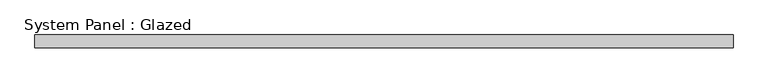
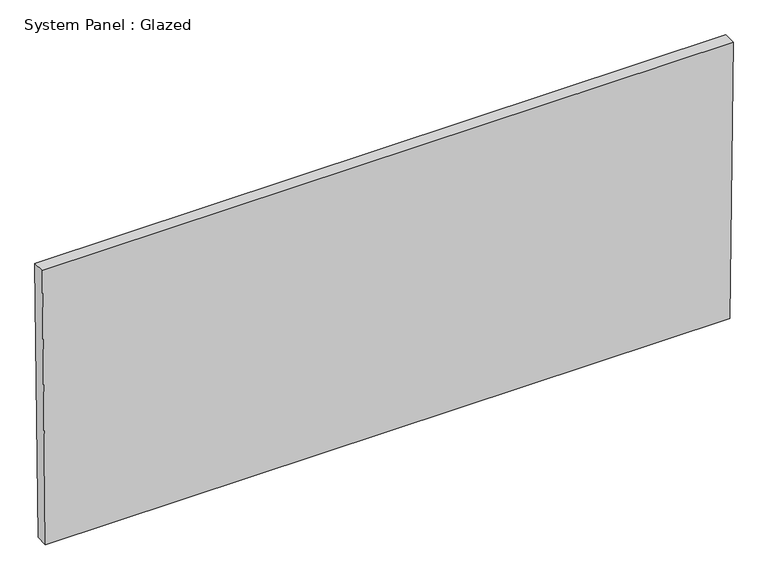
"""IFC4 building model written with IfcOpenShell, lengths in millimetres: plate geometry, System Panel : Glazed."""

from ifc_helpers import new_model, si_unit, frame, origin, place, context, project, spatial, polyline, outline, extrude, source, transform, mapped, element, save


def system_panel_glazed_6222ca12(model_context):
    return source(origin(), model_context, "Body", "SweptSolid", [
        extrude(outline(polyline([(0.0, -686.8768641), (0.0, 686.8768641), (584.1618488, 693.4126871), (584.1618488, -693.4126871), (0.0, -686.8768641)])), frame((0.0, 19.05, 0.0), z_axis=(0.0, 1.0, 0.0), x_axis=(0.0, 0.0, 1.0)), (0.0, 0.0, 1.0), 25.4),
    ])


if __name__ == "__main__":
    model = new_model("IFC4")
    model_context = context("Model", 3, world=origin())
    ifc_project = project(units=[si_unit("LENGTHUNIT", "METRE", prefix="MILLI")], contexts=[model_context])
    site = spatial("IfcSite", under=ifc_project)
    building = spatial("IfcBuilding", under=site)
    placement = place(None, origin())
    system_panel_glazed_shape = system_panel_glazed_6222ca12(model_context)
    element("IfcPlate", 1, ObjectType="System Panel : Glazed", at=placement, inside=building, context=model_context, shape_type="MappedRepresentation", body=[
        mapped(system_panel_glazed_shape, transform((0.0, 0.0, 0.0), x_axis=(1.0, 0.0, 0.0), y_axis=(0.0, 1.0, 0.0), z_axis=(0.0, 0.0, 1.0))),
    ])
    save(model, "model.ifc")
